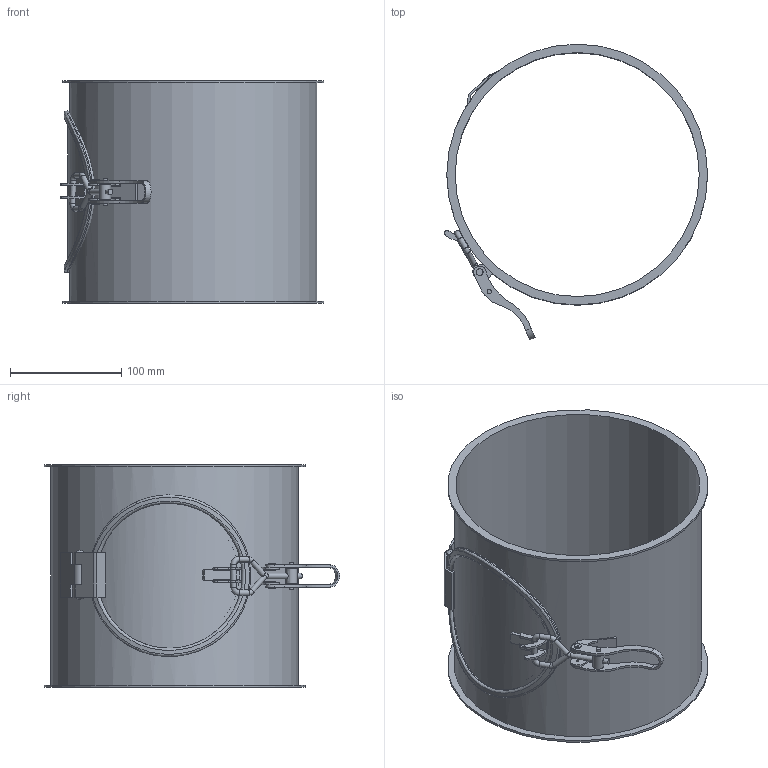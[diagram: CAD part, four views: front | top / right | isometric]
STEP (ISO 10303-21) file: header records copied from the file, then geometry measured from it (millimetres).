
FILE_DESCRIPTION((''),'2;1');
FILE_NAME('U:\Wolfgang\Marcel-3D\fertig\Kapitel 4\2211043.stp','2011-04-21T08:48:49',('TK1'),(''),'Autodesk Inventor 2010','Autodesk Inventor 2010','');
FILE_SCHEMA(('AUTOMOTIVE_DESIGN { 1 0 10303 214 1 1 1 1 }'));
Length unit declared in the file: millimetre
Products named in the file (15): 2211043 (Detailgenauigkeit1); 2211043-1; GelenkDeckel22b; GelenkDeckel1c; Deckel22; GelenkDeckel22a 45; VerschlussDeckel22; dichtung22; Verschluss22; Verschluss22a; Verschluss1b; Verschluss1c; Verschluss1d; Verschluss1e
Assembly tree (15 placements, depth 3):
  2211043 (Detailgenauigkeit1)
    2211043-1
    GelenkDeckel22b
    GelenkDeckel1c
    Deckel22
      Deckel22
      GelenkDeckel22a 45
      VerschlussDeckel22
      dichtung22
    Verschluss22
      Verschluss22a
      Verschluss1b
      Verschluss1c
      Verschluss1d  x2
      Verschluss1e
Bounding box: 236.18 x 265.1 x 200 mm (x, y, z)
Volume: 255193.2 mm3; surface area: 334691.1 mm2
Topology: 13 solids, 13 shells, 177 faces, 416 edges, 269 vertices
Faces by surface type: cylinder 81, plane 80, torus 9, bspline 5, sphere 2
Full cylindrical faces by diameter (mm): 2 x4, 4 x4, 5 x6, 6 x6, 6.2 x2, 10 x1, 115 x1, 130 x1, 135 x1, 145 x1, 219 x1, 222 x1, 234 x2
Entity records: 7106 total; most frequent: CARTESIAN_POINT 2849, DIRECTION 862, ORIENTED_EDGE 710, EDGE_CURVE 355, AXIS2_PLACEMENT_3D 341, VERTEX_POINT 252, EDGE_LOOP 241, VECTOR 180
